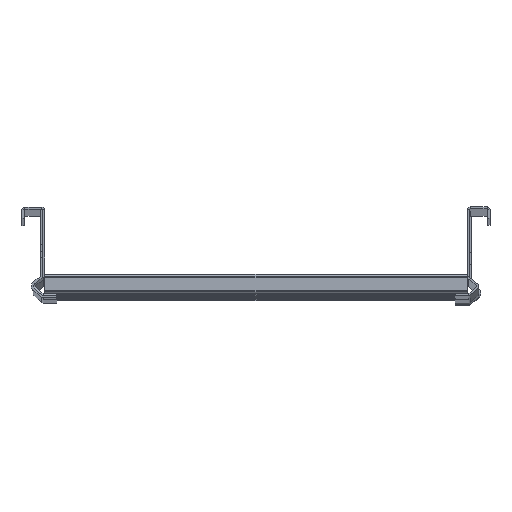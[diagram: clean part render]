
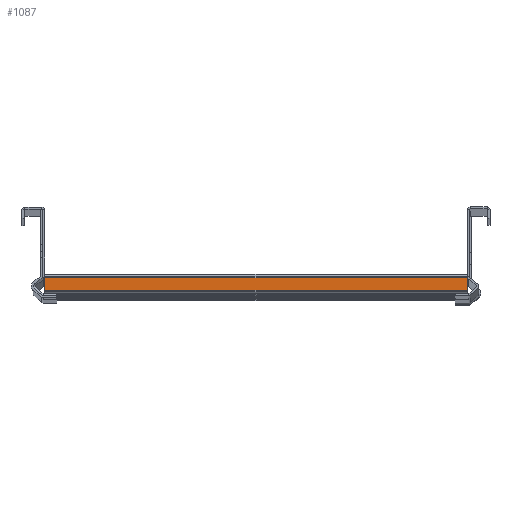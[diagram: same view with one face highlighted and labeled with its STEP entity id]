
A CAD part, top view. The second image highlights one B-rep face of the part: STEP entity #1087.
In plain terms, the highlighted planar face has unit normal (0, 0, 1) as drawn and (-1, 0, 0) by its records, which use the part's own axes.
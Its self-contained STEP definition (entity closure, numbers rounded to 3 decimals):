
#37 = EDGE_CURVE ( 'NONE', #3326, #3198, #3817, .T. ) ;
#243 = AXIS2_PLACEMENT_3D ( 'NONE', #3676, #3130, #2755 ) ;
#459 = VECTOR ( 'NONE', #5152, 1000. ) ;
#514 = VERTEX_POINT ( 'NONE', #4591 ) ;
#1087 = ADVANCED_FACE ( 'NONE', ( #2783 ), #1839, .F. ) ;
#1113 = ORIENTED_EDGE ( 'NONE', *, *, #2945, .T. ) ;
#1537 = CARTESIAN_POINT ( 'NONE',  ( -17.5, 2.5, 150. ) ) ;
#1734 = EDGE_LOOP ( 'NONE', ( #1113, #3702, #2433, #4530 ) ) ;
#1839 = PLANE ( 'NONE',  #243 ) ;
#1887 = VECTOR ( 'NONE', #1909, 1000. ) ;
#1909 = DIRECTION ( 'NONE',  ( 0., 0., -1. ) ) ;
#2433 = ORIENTED_EDGE ( 'NONE', *, *, #37, .F. ) ;
#2718 = LINE ( 'NONE', #4608, #5945 ) ;
#2755 = DIRECTION ( 'NONE',  ( 0., 0., -1. ) ) ;
#2783 = FACE_OUTER_BOUND ( 'NONE', #1734, .T. ) ;
#2945 = EDGE_CURVE ( 'NONE', #4191, #514, #2718, .T. ) ;
#3130 = DIRECTION ( 'NONE',  ( 1., 0., 0. ) ) ;
#3198 = VERTEX_POINT ( 'NONE', #1537 ) ;
#3240 = CARTESIAN_POINT ( 'NONE',  ( -17.5, 14., 150. ) ) ;
#3326 = VERTEX_POINT ( 'NONE', #4857 ) ;
#3676 = CARTESIAN_POINT ( 'NONE',  ( -17.5, 14., 150. ) ) ;
#3702 = ORIENTED_EDGE ( 'NONE', *, *, #4485, .F. ) ;
#3817 = LINE ( 'NONE', #3240, #459 ) ;
#4191 = VERTEX_POINT ( 'NONE', #4699 ) ;
#4212 = CARTESIAN_POINT ( 'NONE',  ( -17.5, 11.5, 150. ) ) ;
#4289 = CARTESIAN_POINT ( 'NONE',  ( -17.5, 2.5, 150. ) ) ;
#4485 = EDGE_CURVE ( 'NONE', #3198, #514, #5282, .T. ) ;
#4530 = ORIENTED_EDGE ( 'NONE', *, *, #4882, .T. ) ;
#4591 = CARTESIAN_POINT ( 'NONE',  ( -17.5, 2.5, -150. ) ) ;
#4608 = CARTESIAN_POINT ( 'NONE',  ( -17.5, 14., -150. ) ) ;
#4699 = CARTESIAN_POINT ( 'NONE',  ( -17.5, 11.5, -150. ) ) ;
#4824 = DIRECTION ( 'NONE',  ( 0., 0., -1. ) ) ;
#4857 = CARTESIAN_POINT ( 'NONE',  ( -17.5, 11.5, 150. ) ) ;
#4882 = EDGE_CURVE ( 'NONE', #3326, #4191, #5138, .T. ) ;
#5101 = DIRECTION ( 'NONE',  ( 0., -1., 0. ) ) ;
#5138 = LINE ( 'NONE', #4212, #1887 ) ;
#5152 = DIRECTION ( 'NONE',  ( 0., -1., 0. ) ) ;
#5282 = LINE ( 'NONE', #4289, #5964 ) ;
#5945 = VECTOR ( 'NONE', #5101, 1000. ) ;
#5964 = VECTOR ( 'NONE', #4824, 1000. ) ;
